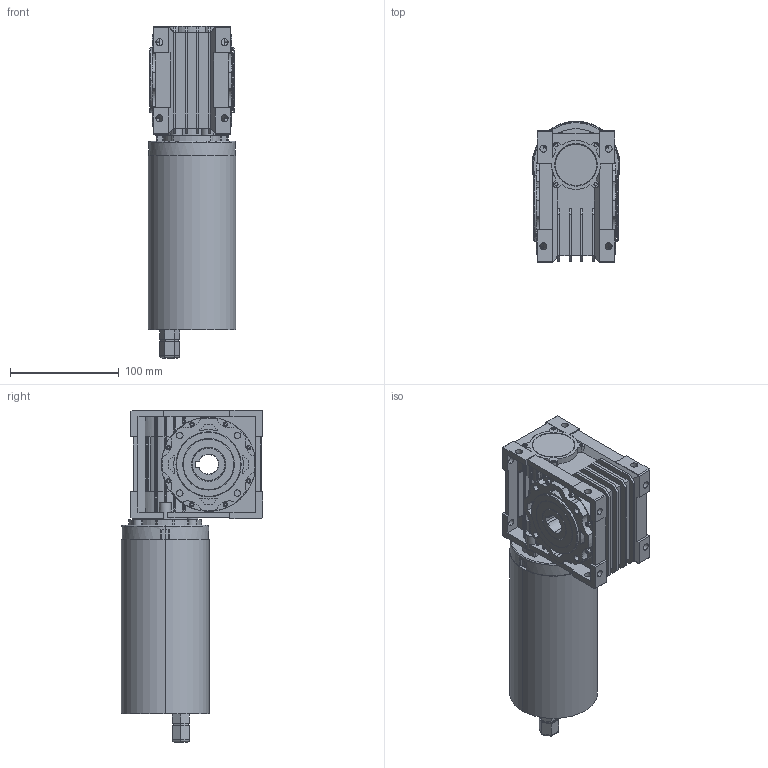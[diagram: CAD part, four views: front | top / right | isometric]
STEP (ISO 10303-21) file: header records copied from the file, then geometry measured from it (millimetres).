
FILE_DESCRIPTION (( 'STEP AP203' ), '1' );
FILE_NAME ('CMRV040-56_DC100_IP66.STEP', '2024-10-15T12:29:04', ( '' ), ( '' ), 'SwSTEP 2.0', 'SolidWorks 2021', '' );
FILE_SCHEMA (( 'CONFIG_CONTROL_DESIGN' ));
Length unit declared in the file: millimetre
Products named in the file (8): 0201110405602.STEP; 3.STEP; hex lobular socket head cap screws-8.8 gb_GB_HEXAGON_TYPE22 M6X16-N.STEP; CMRV040-56B14.STEP; 1.STEP; CMRV040-56_DC100_IP66; 5.STEP; EC100_240_56_B14_IP66.stp.stp
Assembly tree (12 placements, depth 3):
  CMRV040-56_DC100_IP66
    CMRV040-56B14.STEP
      3.STEP
      5.STEP
      1.STEP
      0201110405602.STEP
      hex lobular socket head cap screws-8.8 gb_GB_HEXAGON_TYPE22 M6X16-N.STEP  x6
    EC100_240_56_B14_IP66.stp.stp
Bounding box: 81 x 130.5 x 305.7 mm (x, y, z)
Volume: 1551152.4 mm3; surface area: 223302.6 mm2
Topology: 12 solids, 12 shells, 1284 faces, 3329 edges, 2162 vertices
Faces by surface type: plane 623, cylinder 543, cone 66, bspline 40, torus 12
Entity records: 40536 total; most frequent: CARTESIAN_POINT 9911, DIRECTION 6260, ORIENTED_EDGE 6198, EDGE_CURVE 3099, AXIS2_PLACEMENT_3D 2230, VERTEX_POINT 2037, LINE 1800, VECTOR 1800
